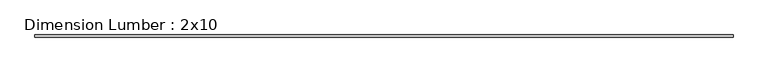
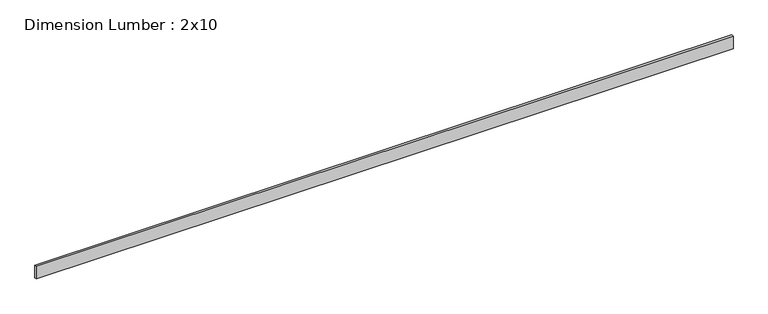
"""IFC4 building model written with IfcOpenShell, lengths in millimetres: beam geometry, Dimension Lumber : 2x10."""

from ifc_helpers import new_model, si_unit, frame, origin, place, context, project, spatial, polyline, outline, extrude, source, transform, mapped, element, save


def dimension_lumber_2x10_bac01d1d(model_context):
    return source(origin(), model_context, "Body", "SweptSolid", [
        extrude(outline(polyline([(8782.0362128, 19.05), (8782.0362128, -19.05), (-3635.0121501, -19.05), (-3635.0121501, 19.05), (8782.0362128, 19.05)])), frame((0.0, 0.0, -117.475), z_axis=(0.0, 0.0, 1.0), x_axis=(1.0, 0.0, 0.0)), (0.0, 0.0, 1.0), 234.95),
    ])


if __name__ == "__main__":
    model = new_model("IFC4")
    model_context = context("Model", 3, world=origin())
    ifc_project = project(units=[si_unit("LENGTHUNIT", "METRE", prefix="MILLI")], contexts=[model_context])
    site = spatial("IfcSite", under=ifc_project)
    building = spatial("IfcBuilding", under=site)
    placement = place(None, origin())
    dimension_lumber_2x10_shape = dimension_lumber_2x10_bac01d1d(model_context)
    element("IfcBeam", 1, ObjectType="Dimension Lumber : 2x10", at=placement, inside=building, context=model_context, shape_type="MappedRepresentation", body=[
        mapped(dimension_lumber_2x10_shape, transform((0.0, 0.0, 0.0), x_axis=(1.0, 0.0, 0.0), y_axis=(0.0, 1.0, 0.0), z_axis=(0.0, 0.0, 1.0))),
    ])
    save(model, "model.ifc")
